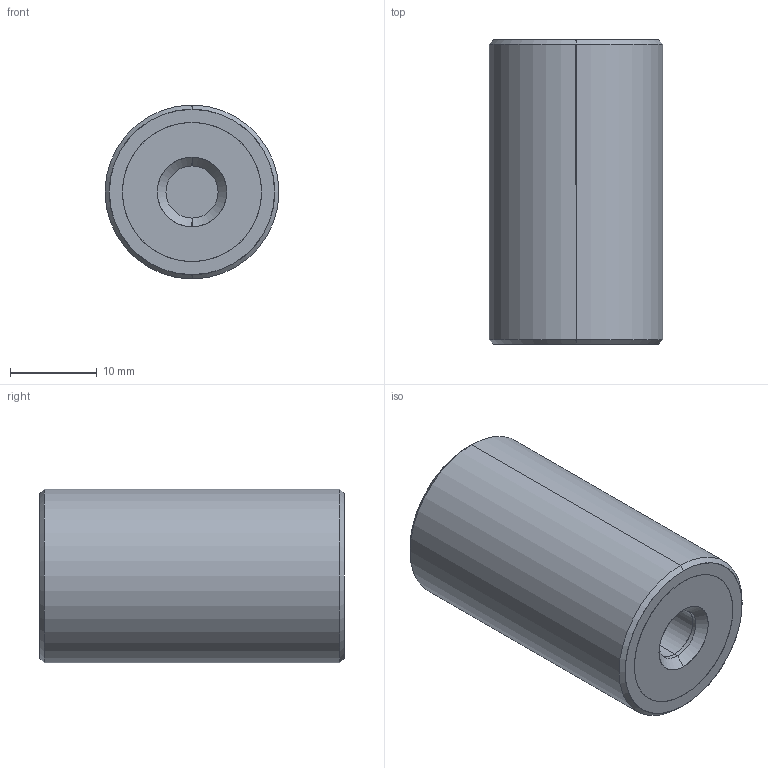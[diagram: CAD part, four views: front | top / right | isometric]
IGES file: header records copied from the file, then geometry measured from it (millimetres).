
Start section: SolidWorks IGES file using analytic representation for surfaces
Global section: file name: E:\WIXROYD 20180701\61080_v2\61080_v2_20180409_IGES\61080.W0204.igs; native system: SolidWorks 2017; preprocessor: SolidWorks 2017; author: liam_; date: 180716.214302; units: millimetre
Bounding box: 20 x 35 x 20 mm (x, y, z)
Surface area: 3989.4 mm2 (no closed solid volume)
Topology: 0 solids, 0 shells, 36 faces, 680 edges, 680 vertices
Faces by surface type: revolution 26, bspline 10
